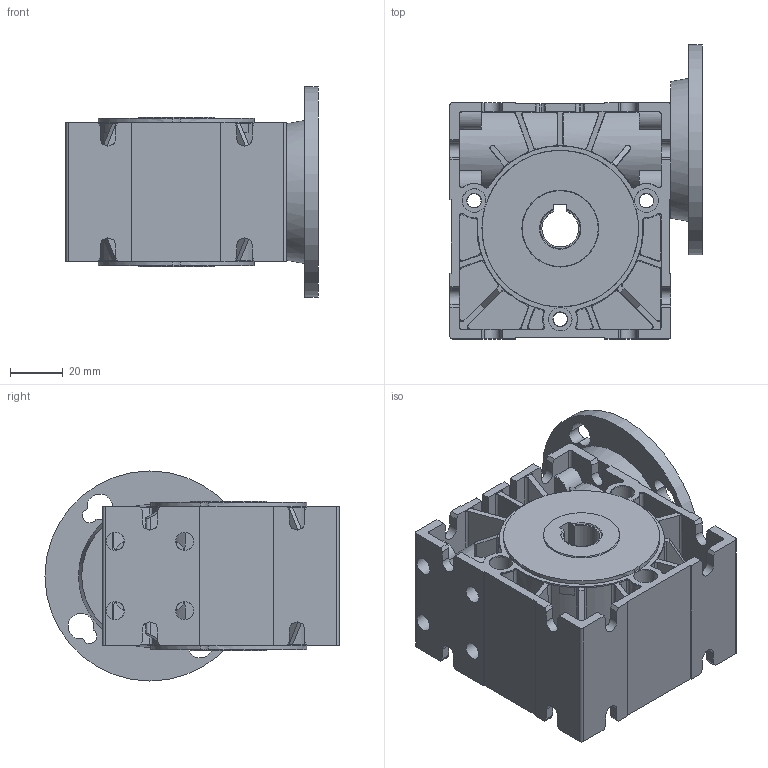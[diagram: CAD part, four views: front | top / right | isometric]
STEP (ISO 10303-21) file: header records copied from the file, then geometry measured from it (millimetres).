
FILE_DESCRIPTION (( 'STEP AP203' ), '1' );
FILE_NAME ('MU 30 PAM 56 B14.STEP', '2016-03-10T08:54:10', ( 'm.piscopiello' ), ( '' ), 'SwSTEP 2.0', 'SolidWorks 2015', '' );
FILE_SCHEMA (( 'CONFIG_CONTROL_DESIGN' ));
Length unit declared in the file: millimetre
Products named in the file (1): MU 30 PAM 56 B14
Bounding box: 96 x 112 x 80 mm (x, y, z)
Volume: 309956.9 mm3; surface area: 81966.1 mm2
Topology: 1 solids, 1 shells, 701 faces, 2063 edges, 1357 vertices
Faces by surface type: plane 357, cylinder 251, cone 57, bspline 36
Full cylindrical faces by diameter (mm): 6.8 x4, 9 x6, 17 x1, 25 x1, 27.8 x1, 50 x1, 59.61 x2, 80 x1
Entity records: 28465 total; most frequent: CARTESIAN_POINT 10983, ORIENTED_EDGE 4018, DIRECTION 3090, EDGE_CURVE 2009, VERTEX_POINT 1335, AXIS2_PLACEMENT_3D 1068, VECTOR 954, LINE 954
